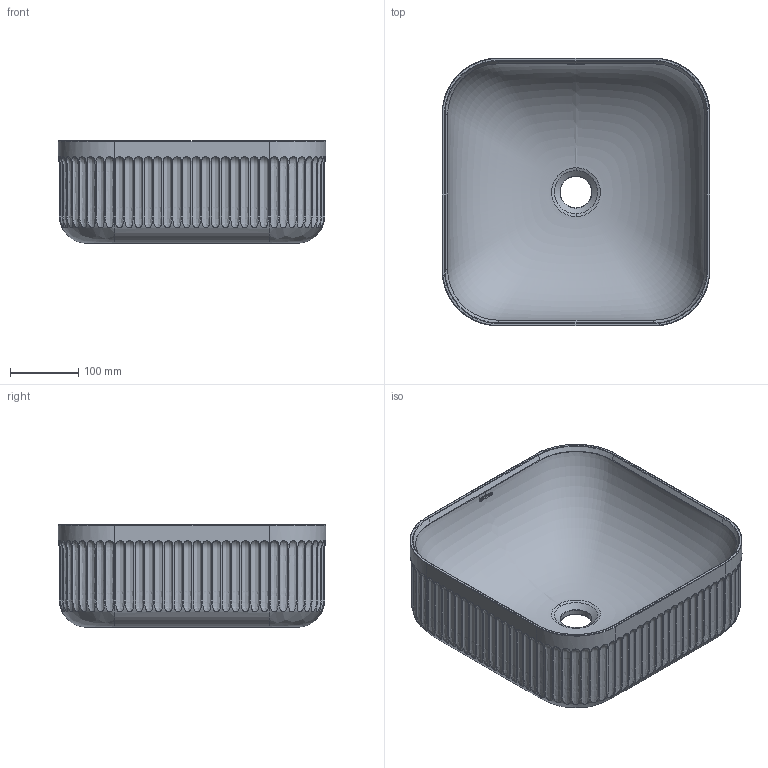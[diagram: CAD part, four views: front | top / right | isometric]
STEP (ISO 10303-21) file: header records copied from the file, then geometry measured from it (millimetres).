
FILE_DESCRIPTION(/* description */ (''),/* implementation_level */ '2;1');
FILE_NAME(/* name */ '00602_~1',/* time_stamp */ '2023-11-13T16:33:49+01:00',/* author */ (''),/* organization */ (''),/* preprocessor_version */ 'ST-DEVELOPER v16.5',/* originating_system */ '',/* authorisation */ '');
FILE_SCHEMA (('CONFIG_CONTROL_DESIGN'));
Products named in the file (1): Document
Bounding box: 391.59 x 391.59 x 150 mm (x, y, z)
Volume: 6560240.8 mm3; surface area: 632755 mm2
Topology: 8 solids, 8 shells, 512 faces, 1386 edges, 888 vertices
Faces by surface type: bspline 302, cylinder 125, plane 85
Full cylindrical faces by diameter (mm): 46 x1
Entity records: 526038 total; most frequent: CARTESIAN_POINT 517858, ORIENTED_EDGE 2772, EDGE_CURVE 1386, VERTEX_POINT 888, B_SPLINE_CURVE_WITH_KNOTS 739, EDGE_LOOP 518, ADVANCED_FACE 512, FACE_OUTER_BOUND 512
